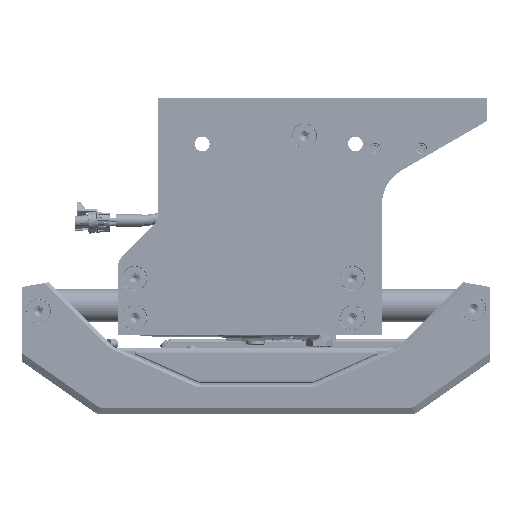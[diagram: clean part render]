
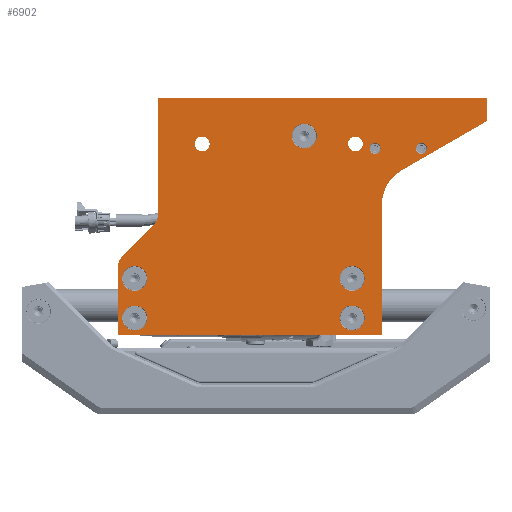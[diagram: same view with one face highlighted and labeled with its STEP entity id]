
A CAD part, left-side view. The second image highlights one B-rep face of the part: STEP entity #6902.
In plain terms, the highlighted planar face has unit normal (-1, 0, 0) as drawn and (1, 0, 0) by its records, which use the part's own axes.
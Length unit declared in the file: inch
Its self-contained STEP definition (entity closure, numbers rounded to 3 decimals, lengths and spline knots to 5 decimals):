
#5225=DIRECTION('',(0.,0.,1.));
#5226=VECTOR('',#5225,0.875);
#5227=CARTESIAN_POINT('',(0.,0.,0.));
#5228=LINE('',#5227,#5226);
#5473=CARTESIAN_POINT('',(0.,5.125,8.35));
#5474=DIRECTION('',(-1.,0.,0.));
#5475=DIRECTION('',(0.,-1.,0.));
#5476=AXIS2_PLACEMENT_3D('',#5473,#5474,#5475);
#5478=CARTESIAN_POINT('',(0.,5.125,8.35));
#5479=DIRECTION('',(-1.,0.,0.));
#5480=DIRECTION('',(0.,1.,0.));
#5481=AXIS2_PLACEMENT_3D('',#5478,#5479,#5480);
#5483=CARTESIAN_POINT('',(0.,13.375,8.35));
#5484=DIRECTION('',(-1.,0.,0.));
#5485=DIRECTION('',(0.,-1.,0.));
#5486=AXIS2_PLACEMENT_3D('',#5483,#5484,#5485);
#5488=CARTESIAN_POINT('',(0.,13.375,8.35));
#5489=DIRECTION('',(-1.,0.,0.));
#5490=DIRECTION('',(0.,1.,0.));
#5491=AXIS2_PLACEMENT_3D('',#5488,#5489,#5490);
#5493=CARTESIAN_POINT('',(0.,5.125,6.85));
#5494=DIRECTION('',(-1.,0.,0.));
#5495=DIRECTION('',(0.,-1.,0.));
#5496=AXIS2_PLACEMENT_3D('',#5493,#5494,#5495);
#5498=CARTESIAN_POINT('',(0.,5.125,6.85));
#5499=DIRECTION('',(-1.,0.,0.));
#5500=DIRECTION('',(0.,1.,0.));
#5501=AXIS2_PLACEMENT_3D('',#5498,#5499,#5500);
#5503=CARTESIAN_POINT('',(0.,13.375,6.85));
#5504=DIRECTION('',(-1.,0.,0.));
#5505=DIRECTION('',(0.,-1.,0.));
#5506=AXIS2_PLACEMENT_3D('',#5503,#5504,#5505);
#5508=CARTESIAN_POINT('',(0.,13.375,6.85));
#5509=DIRECTION('',(-1.,0.,0.));
#5510=DIRECTION('',(0.,1.,0.));
#5511=AXIS2_PLACEMENT_3D('',#5508,#5509,#5510);
#5513=CARTESIAN_POINT('',(0.,10.815,1.75));
#5514=DIRECTION('',(-1.,0.,0.));
#5515=DIRECTION('',(0.,0.,1.));
#5516=AXIS2_PLACEMENT_3D('',#5513,#5514,#5515);
#5518=CARTESIAN_POINT('',(0.,10.815,1.75));
#5519=DIRECTION('',(-1.,0.,0.));
#5520=DIRECTION('',(0.,0.,-1.));
#5521=AXIS2_PLACEMENT_3D('',#5518,#5519,#5520);
#5523=CARTESIAN_POINT('',(0.,5.,1.75));
#5524=DIRECTION('',(-1.,0.,0.));
#5525=DIRECTION('',(0.,0.,1.));
#5526=AXIS2_PLACEMENT_3D('',#5523,#5524,#5525);
#5528=CARTESIAN_POINT('',(0.,5.,1.75));
#5529=DIRECTION('',(-1.,0.,0.));
#5530=DIRECTION('',(0.,0.,-1.));
#5531=AXIS2_PLACEMENT_3D('',#5528,#5529,#5530);
#5533=CARTESIAN_POINT('',(0.,6.94,1.45));
#5534=DIRECTION('',(1.,0.,0.));
#5535=DIRECTION('',(0.,0.,1.));
#5536=AXIS2_PLACEMENT_3D('',#5533,#5534,#5535);
#5538=CARTESIAN_POINT('',(0.,6.94,1.45));
#5539=DIRECTION('',(1.,0.,0.));
#5540=DIRECTION('',(0.,0.,-1.));
#5541=AXIS2_PLACEMENT_3D('',#5538,#5539,#5540);
#5543=CARTESIAN_POINT('',(0.,4.25834,1.92126));
#5544=DIRECTION('',(1.,0.,0.));
#5545=DIRECTION('',(0.,-1.,0.));
#5546=AXIS2_PLACEMENT_3D('',#5543,#5544,#5545);
#5548=CARTESIAN_POINT('',(0.,4.25834,1.92126));
#5549=DIRECTION('',(1.,0.,0.));
#5550=DIRECTION('',(0.,1.,0.));
#5551=AXIS2_PLACEMENT_3D('',#5548,#5549,#5550);
#5553=CARTESIAN_POINT('',(0.,2.5,1.92126));
#5554=DIRECTION('',(1.,0.,0.));
#5555=DIRECTION('',(0.,-1.,0.));
#5556=AXIS2_PLACEMENT_3D('',#5553,#5554,#5555);
#5558=CARTESIAN_POINT('',(0.,2.5,1.92126));
#5559=DIRECTION('',(1.,0.,0.));
#5560=DIRECTION('',(0.,1.,0.));
#5561=AXIS2_PLACEMENT_3D('',#5558,#5559,#5560);
#5563=DIRECTION('',(0.,0.,1.));
#5564=VECTOR('',#5563,4.46289);
#5565=CARTESIAN_POINT('',(0.,12.5,0.));
#5566=LINE('',#5565,#5564);
#5567=DIRECTION('',(0.,1.,0.));
#5568=VECTOR('',#5567,12.5);
#5569=CARTESIAN_POINT('',(0.,0.,0.));
#5570=LINE('',#5569,#5568);
#5571=DIRECTION('',(0.,-0.866,-0.5));
#5572=VECTOR('',#5571,3.75278);
#5573=CARTESIAN_POINT('',(0.,3.25,2.75139));
#5574=LINE('',#5573,#5572);
#5575=CARTESIAN_POINT('',(0.,2.5,4.05043));
#5576=DIRECTION('',(-1.,0.,0.));
#5577=DIRECTION('',(0.,1.,0.));
#5578=AXIS2_PLACEMENT_3D('',#5575,#5576,#5577);
#5580=DIRECTION('',(0.,0.,-1.));
#5581=VECTOR('',#5580,4.94957);
#5582=CARTESIAN_POINT('',(0.,4.,9.));
#5583=LINE('',#5582,#5581);
#5584=CARTESIAN_POINT('',(0.,13.5,6.37711));
#5585=DIRECTION('',(-1.,0.,0.));
#5586=DIRECTION('',(0.,1.,0.));
#5587=AXIS2_PLACEMENT_3D('',#5584,#5585,#5586);
#5589=DIRECTION('',(0.,0.707,0.707));
#5590=VECTOR('',#5589,1.70711);
#5591=CARTESIAN_POINT('',(0.,12.64645,4.81645));
#5592=LINE('',#5591,#5590);
#6120=CARTESIAN_POINT('',(0.,13.,4.46289));
#6121=DIRECTION('',(1.,0.,0.));
#6122=DIRECTION('',(0.,-0.707,0.707));
#6123=AXIS2_PLACEMENT_3D('',#6120,#6121,#6122);
#6129=DIRECTION('',(0.,0.,1.));
#6130=VECTOR('',#6129,2.62289);
#6131=CARTESIAN_POINT('',(0.,14.,6.37711));
#6132=LINE('',#6131,#6130);
#6145=DIRECTION('',(0.,1.,0.));
#6146=VECTOR('',#6145,10.);
#6147=CARTESIAN_POINT('',(0.,4.,9.));
#6148=LINE('',#6147,#6146);
#6206=CARTESIAN_POINT('',(0.,14.,9.));
#6208=VERTEX_POINT('',#6206);
#6216=CARTESIAN_POINT('',(0.,0.,0.));
#6217=CARTESIAN_POINT('',(0.,12.5,0.));
#6218=VERTEX_POINT('',#6216);
#6219=VERTEX_POINT('',#6217);
#6221=CARTESIAN_POINT('',(0.,0.,0.875));
#6223=VERTEX_POINT('',#6221);
#6232=CARTESIAN_POINT('',(0.,3.25,2.75139));
#6233=VERTEX_POINT('',#6232);
#6234=CARTESIAN_POINT('',(0.,4.,9.));
#6235=CARTESIAN_POINT('',(0.,4.,4.05043));
#6236=VERTEX_POINT('',#6234);
#6237=VERTEX_POINT('',#6235);
#6263=CARTESIAN_POINT('',(0.,4.6525,8.35));
#6265=VERTEX_POINT('',#6263);
#6267=CARTESIAN_POINT('',(0.,5.5975,8.35));
#6269=VERTEX_POINT('',#6267);
#6271=CARTESIAN_POINT('',(0.,12.9025,8.35));
#6273=VERTEX_POINT('',#6271);
#6275=CARTESIAN_POINT('',(0.,13.8475,8.35));
#6277=VERTEX_POINT('',#6275);
#6279=CARTESIAN_POINT('',(0.,4.6525,6.85));
#6281=VERTEX_POINT('',#6279);
#6283=CARTESIAN_POINT('',(0.,5.5975,6.85));
#6285=VERTEX_POINT('',#6283);
#6287=CARTESIAN_POINT('',(0.,12.9025,6.85));
#6289=VERTEX_POINT('',#6287);
#6291=CARTESIAN_POINT('',(0.,13.8475,6.85));
#6293=VERTEX_POINT('',#6291);
#6334=CARTESIAN_POINT('',(0.,14.,6.37711));
#6335=CARTESIAN_POINT('',(0.,13.85355,6.02355));
#6336=VERTEX_POINT('',#6334);
#6337=VERTEX_POINT('',#6335);
#6350=CARTESIAN_POINT('',(0.,10.815,2.0315));
#6351=VERTEX_POINT('',#6350);
#6352=CARTESIAN_POINT('',(0.,10.815,1.4685));
#6353=VERTEX_POINT('',#6352);
#6354=CARTESIAN_POINT('',(0.,5.,2.0315));
#6355=VERTEX_POINT('',#6354);
#6356=CARTESIAN_POINT('',(0.,5.,1.4685));
#6357=VERTEX_POINT('',#6356);
#6386=CARTESIAN_POINT('',(0.,6.94,1.9225));
#6387=CARTESIAN_POINT('',(0.,6.94,0.9775));
#6388=VERTEX_POINT('',#6386);
#6389=VERTEX_POINT('',#6387);
#6390=CARTESIAN_POINT('',(0.,12.64645,4.81645));
#6392=VERTEX_POINT('',#6390);
#6394=CARTESIAN_POINT('',(0.,12.5,4.46289));
#6396=VERTEX_POINT('',#6394);
#6462=CARTESIAN_POINT('',(0.,4.05084,1.92126));
#6463=CARTESIAN_POINT('',(0.,4.46584,1.92126));
#6464=VERTEX_POINT('',#6462);
#6465=VERTEX_POINT('',#6463);
#6470=CARTESIAN_POINT('',(0.,2.2925,1.92126));
#6471=CARTESIAN_POINT('',(0.,2.7075,1.92126));
#6472=VERTEX_POINT('',#6470);
#6473=VERTEX_POINT('',#6471);
#6822=CARTESIAN_POINT('',(0.,0.,0.));
#6823=DIRECTION('',(-1.,0.,0.));
#6824=DIRECTION('',(0.,0.,1.));
#6825=AXIS2_PLACEMENT_3D('',#6822,#6823,#6824);
#6826=PLANE('',#6825);
#6827=ORIENTED_EDGE('',*,*,#6810,.F.);
#6828=ORIENTED_EDGE('',*,*,#6650,.F.);
#6829=ORIENTED_EDGE('',*,*,#6491,.T.);
#6831=ORIENTED_EDGE('',*,*,#6830,.F.);
#6833=ORIENTED_EDGE('',*,*,#6832,.F.);
#6835=ORIENTED_EDGE('',*,*,#6834,.F.);
#6837=ORIENTED_EDGE('',*,*,#6836,.T.);
#6839=ORIENTED_EDGE('',*,*,#6838,.F.);
#6841=ORIENTED_EDGE('',*,*,#6840,.T.);
#6843=ORIENTED_EDGE('',*,*,#6842,.F.);
#6845=ORIENTED_EDGE('',*,*,#6844,.T.);
#6846=EDGE_LOOP('',(#6827,#6828,#6829,#6831,#6833,#6835,#6837,#6839,#6841,#6843,
#6845));
#6847=FACE_OUTER_BOUND('',#6846,.F.);
#6849=ORIENTED_EDGE('',*,*,#6848,.F.);
#6851=ORIENTED_EDGE('',*,*,#6850,.F.);
#6852=EDGE_LOOP('',(#6849,#6851));
#6853=FACE_BOUND('',#6852,.F.);
#6855=ORIENTED_EDGE('',*,*,#6854,.F.);
#6857=ORIENTED_EDGE('',*,*,#6856,.F.);
#6858=EDGE_LOOP('',(#6855,#6857));
#6859=FACE_BOUND('',#6858,.F.);
#6861=ORIENTED_EDGE('',*,*,#6860,.F.);
#6863=ORIENTED_EDGE('',*,*,#6862,.F.);
#6864=EDGE_LOOP('',(#6861,#6863));
#6865=FACE_BOUND('',#6864,.F.);
#6867=ORIENTED_EDGE('',*,*,#6866,.F.);
#6869=ORIENTED_EDGE('',*,*,#6868,.F.);
#6870=EDGE_LOOP('',(#6867,#6869));
#6871=FACE_BOUND('',#6870,.F.);
#6873=ORIENTED_EDGE('',*,*,#6872,.F.);
#6875=ORIENTED_EDGE('',*,*,#6874,.F.);
#6876=EDGE_LOOP('',(#6873,#6875));
#6877=FACE_BOUND('',#6876,.F.);
#6879=ORIENTED_EDGE('',*,*,#6878,.T.);
#6881=ORIENTED_EDGE('',*,*,#6880,.T.);
#6882=EDGE_LOOP('',(#6879,#6881));
#6883=FACE_BOUND('',#6882,.F.);
#6885=ORIENTED_EDGE('',*,*,#6884,.T.);
#6887=ORIENTED_EDGE('',*,*,#6886,.T.);
#6888=EDGE_LOOP('',(#6885,#6887));
#6889=FACE_BOUND('',#6888,.F.);
#6891=ORIENTED_EDGE('',*,*,#6890,.T.);
#6893=ORIENTED_EDGE('',*,*,#6892,.T.);
#6894=EDGE_LOOP('',(#6891,#6893));
#6895=FACE_BOUND('',#6894,.F.);
#6897=ORIENTED_EDGE('',*,*,#6896,.F.);
#6899=ORIENTED_EDGE('',*,*,#6898,.F.);
#6900=EDGE_LOOP('',(#6897,#6899));
#6901=FACE_BOUND('',#6900,.F.);
#6902=ADVANCED_FACE('',(#6847,#6853,#6859,#6865,#6871,#6877,#6883,#6889,#6895,
#6901),#6826,.F.);
#5477=CIRCLE('',#5476,0.4725);
#5482=CIRCLE('',#5481,0.4725);
#5487=CIRCLE('',#5486,0.4725);
#5492=CIRCLE('',#5491,0.4725);
#5497=CIRCLE('',#5496,0.4725);
#5502=CIRCLE('',#5501,0.4725);
#5507=CIRCLE('',#5506,0.4725);
#5512=CIRCLE('',#5511,0.4725);
#5517=CIRCLE('',#5516,0.2815);
#5522=CIRCLE('',#5521,0.2815);
#5527=CIRCLE('',#5526,0.2815);
#5532=CIRCLE('',#5531,0.2815);
#5537=CIRCLE('',#5536,0.4725);
#5542=CIRCLE('',#5541,0.4725);
#5547=CIRCLE('',#5546,0.2075);
#5552=CIRCLE('',#5551,0.2075);
#5557=CIRCLE('',#5556,0.2075);
#5562=CIRCLE('',#5561,0.2075);
#5579=CIRCLE('',#5578,1.5);
#5588=CIRCLE('',#5587,0.5);
#6124=CIRCLE('',#6123,0.5);
#6491=EDGE_CURVE('',#6218,#6223,#5228,.T.);
#6650=EDGE_CURVE('',#6218,#6219,#5570,.T.);
#6810=EDGE_CURVE('',#6219,#6396,#5566,.T.);
#6830=EDGE_CURVE('',#6233,#6223,#5574,.T.);
#6832=EDGE_CURVE('',#6237,#6233,#5579,.T.);
#6834=EDGE_CURVE('',#6236,#6237,#5583,.T.);
#6836=EDGE_CURVE('',#6236,#6208,#6148,.T.);
#6838=EDGE_CURVE('',#6336,#6208,#6132,.T.);
#6840=EDGE_CURVE('',#6336,#6337,#5588,.T.);
#6842=EDGE_CURVE('',#6392,#6337,#5592,.T.);
#6844=EDGE_CURVE('',#6392,#6396,#6124,.T.);
#6848=EDGE_CURVE('',#6273,#6277,#5487,.T.);
#6850=EDGE_CURVE('',#6277,#6273,#5492,.T.);
#6854=EDGE_CURVE('',#6281,#6285,#5497,.T.);
#6856=EDGE_CURVE('',#6285,#6281,#5502,.T.);
#6860=EDGE_CURVE('',#6289,#6293,#5507,.T.);
#6862=EDGE_CURVE('',#6293,#6289,#5512,.T.);
#6866=EDGE_CURVE('',#6351,#6353,#5517,.T.);
#6868=EDGE_CURVE('',#6353,#6351,#5522,.T.);
#6872=EDGE_CURVE('',#6355,#6357,#5527,.T.);
#6874=EDGE_CURVE('',#6357,#6355,#5532,.T.);
#6878=EDGE_CURVE('',#6388,#6389,#5537,.T.);
#6880=EDGE_CURVE('',#6389,#6388,#5542,.T.);
#6884=EDGE_CURVE('',#6464,#6465,#5547,.T.);
#6886=EDGE_CURVE('',#6465,#6464,#5552,.T.);
#6890=EDGE_CURVE('',#6472,#6473,#5557,.T.);
#6892=EDGE_CURVE('',#6473,#6472,#5562,.T.);
#6896=EDGE_CURVE('',#6265,#6269,#5477,.T.);
#6898=EDGE_CURVE('',#6269,#6265,#5482,.T.);
